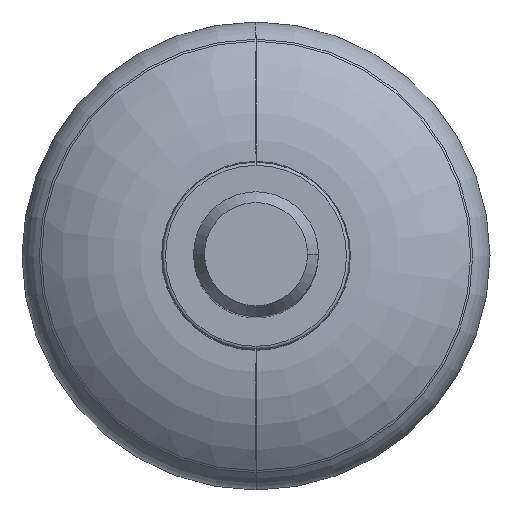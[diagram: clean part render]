
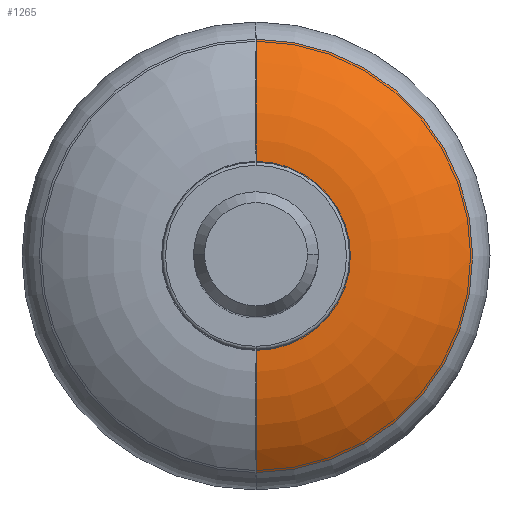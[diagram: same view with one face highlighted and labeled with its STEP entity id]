
A CAD part, top view. The second image highlights one B-rep face of the part: STEP entity #1265.
In plain terms, the highlighted toroidal (fillet/blend) face has major radius 15.132 mm and minor radius 30 mm.
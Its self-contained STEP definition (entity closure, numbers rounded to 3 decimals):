
#151 = CARTESIAN_POINT ( 'NONE',  ( 0., 0., -2.016 ) ) ;
#213 = VERTEX_POINT ( 'NONE', #1608 ) ;
#414 = ORIENTED_EDGE ( 'NONE', *, *, #4643, .F. ) ;
#436 = AXIS2_PLACEMENT_3D ( 'NONE', #2173, #1707, #4052 ) ;
#537 = AXIS2_PLACEMENT_3D ( 'NONE', #2141, #4022, #3656 ) ;
#678 = DIRECTION ( 'NONE',  ( 0., 1., 0. ) ) ;
#696 = DIRECTION ( 'NONE',  ( 0., 1., 0. ) ) ;
#702 = VERTEX_POINT ( 'NONE', #1269 ) ;
#757 = AXIS2_PLACEMENT_3D ( 'NONE', #2293, #4291, #678 ) ;
#848 = AXIS2_PLACEMENT_3D ( 'NONE', #2977, #1769, #696 ) ;
#889 = CARTESIAN_POINT ( 'NONE',  ( 0., 34.719, -9.277 ) ) ;
#897 = DIRECTION ( 'NONE',  ( 0., 0., -1. ) ) ;
#973 = EDGE_CURVE ( 'NONE', #4972, #213, #2625, .T. ) ;
#1033 = CIRCLE ( 'NONE', #757, 34.719 ) ;
#1256 = ORIENTED_EDGE ( 'NONE', *, *, #3841, .F. ) ;
#1265 = ADVANCED_FACE ( 'NONE', ( #1786 ), #1859, .T. ) ;
#1269 = CARTESIAN_POINT ( 'NONE',  ( 0., -34.719, -9.277 ) ) ;
#1608 = CARTESIAN_POINT ( 'NONE',  ( 0., -14.159, -2.016 ) ) ;
#1707 = DIRECTION ( 'NONE',  ( 0., 0., -1. ) ) ;
#1745 = DIRECTION ( 'NONE',  ( 0., 1., 0. ) ) ;
#1769 = DIRECTION ( 'NONE',  ( -1., 0., 0. ) ) ;
#1786 = FACE_OUTER_BOUND ( 'NONE', #3667, .T. ) ;
#1859 = TOROIDAL_SURFACE ( 'NONE', #436, 15.132, 30. ) ;
#1874 = CIRCLE ( 'NONE', #537, 30. ) ;
#1948 = ORIENTED_EDGE ( 'NONE', *, *, #973, .T. ) ;
#2021 = VERTEX_POINT ( 'NONE', #889 ) ;
#2141 = CARTESIAN_POINT ( 'NONE',  ( 0., -15.132, -32. ) ) ;
#2173 = CARTESIAN_POINT ( 'NONE',  ( 0., 0., -32. ) ) ;
#2293 = CARTESIAN_POINT ( 'NONE',  ( 0., 0., -9.277 ) ) ;
#2625 = CIRCLE ( 'NONE', #4913, 14.159 ) ;
#2746 = CARTESIAN_POINT ( 'NONE',  ( 0., 14.159, -2.016 ) ) ;
#2977 = CARTESIAN_POINT ( 'NONE',  ( 0., 15.132, -32. ) ) ;
#3656 = DIRECTION ( 'NONE',  ( 0., -1., 0. ) ) ;
#3667 = EDGE_LOOP ( 'NONE', ( #414, #1948, #1256, #4232 ) ) ;
#3841 = EDGE_CURVE ( 'NONE', #702, #213, #1874, .T. ) ;
#3897 = CIRCLE ( 'NONE', #848, 30. ) ;
#4022 = DIRECTION ( 'NONE',  ( -1., 0., 0. ) ) ;
#4052 = DIRECTION ( 'NONE',  ( 0., 1., 0. ) ) ;
#4232 = ORIENTED_EDGE ( 'NONE', *, *, #4517, .F. ) ;
#4291 = DIRECTION ( 'NONE',  ( 0., 0., -1. ) ) ;
#4517 = EDGE_CURVE ( 'NONE', #2021, #702, #1033, .T. ) ;
#4643 = EDGE_CURVE ( 'NONE', #4972, #2021, #3897, .T. ) ;
#4913 = AXIS2_PLACEMENT_3D ( 'NONE', #151, #897, #1745 ) ;
#4972 = VERTEX_POINT ( 'NONE', #2746 ) ;
